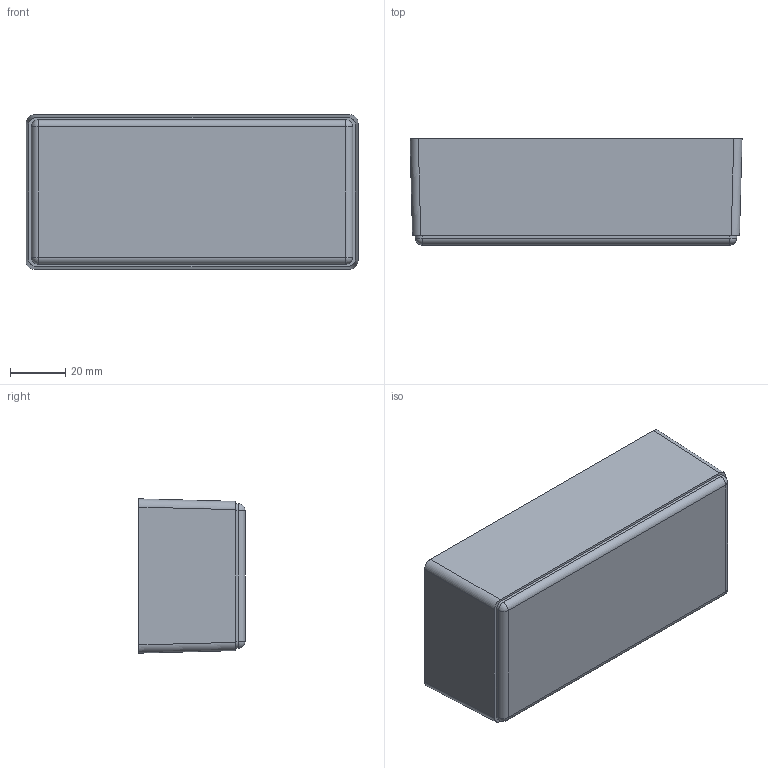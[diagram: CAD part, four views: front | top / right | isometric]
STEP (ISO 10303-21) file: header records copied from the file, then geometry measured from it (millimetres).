
FILE_DESCRIPTION (( 'STEP AP214' ), '1' );
FILE_NAME ('Cuerpo PP55.STEP', '2017-01-23T11:16:23', ( 'aaa' ), ( '' ), 'SwSTEP 2.0', 'SolidWorks 2013', '' );
FILE_SCHEMA (( 'AUTOMOTIVE_DESIGN' ));
Length unit declared in the file: millimetre
Products named in the file (1): Cuerpo PP55
Bounding box: 120.5 x 38.5 x 56 mm (x, y, z)
Volume: 41661.2 mm3; surface area: 40352.8 mm2
Topology: 1 solids, 1 shells, 81 faces, 184 edges, 116 vertices
Faces by surface type: cylinder 44, plane 33, sphere 4
Entity records: 2284 total; most frequent: CARTESIAN_POINT 426, DIRECTION 400, ORIENTED_EDGE 360, EDGE_CURVE 180, AXIS2_PLACEMENT_3D 154, VERTEX_POINT 116, EDGE_LOOP 96, VECTOR 92
